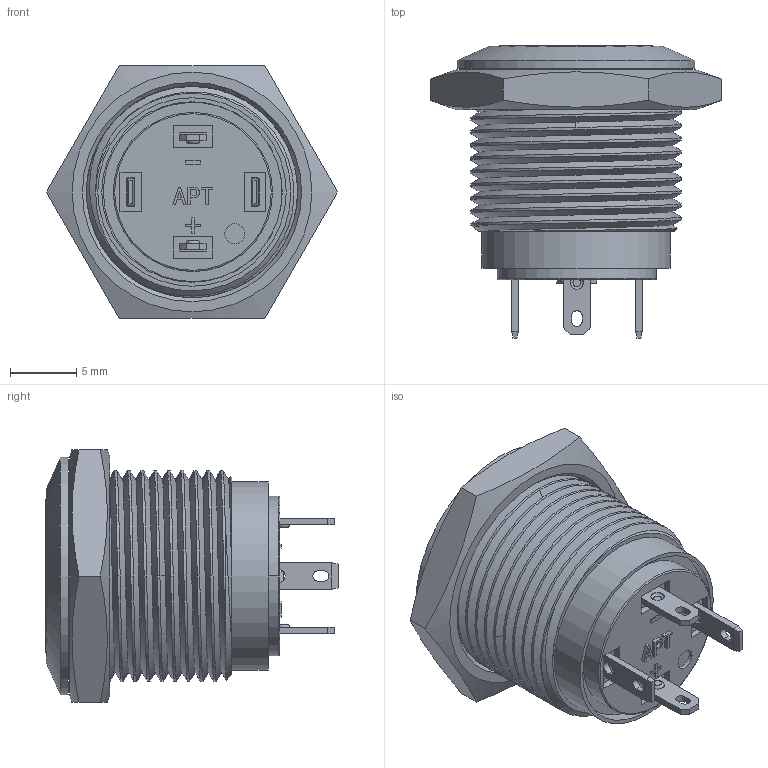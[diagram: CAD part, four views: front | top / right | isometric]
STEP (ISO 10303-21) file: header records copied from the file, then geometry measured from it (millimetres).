
FILE_DESCRIPTION(/* description */ (''),/* implementation_level */ '2;1');
FILE_NAME(/* name */ 'FM16E-SFP-10D1.stp',/* time_stamp */ '2020-07-29T09:38:37+08:00',/* author */ (''),/* organization */ (''),/* preprocessor_version */ 'ST-DEVELOPER v16.7',/* originating_system */ 'SIEMENS PLM Software NX 12.0',/* authorisation */ '');
FILE_SCHEMA (('AUTOMOTIVE_DESIGN { 1 0 10303 214 3 1 1 1 }'));
Length unit declared in the file: millimetre
Products named in the file (1): Admi4A54F2A67hfz
Bounding box: 21.94 x 22.02 x 19 mm (x, y, z)
Volume: 2561.7 mm3; surface area: 4942.1 mm2
Topology: 2 solids, 3 shells, 435 faces, 1168 edges, 762 vertices
Faces by surface type: plane 309, cylinder 83, cone 18, torus 11, bspline 10, extrusion 4
Full cylindrical faces by diameter (mm): 1 x2, 1.1 x2, 1.5 x1, 10.9 x1, 11.8 x1, 12.7 x1, 13.6 x1, 14.2 x1, 14.5 x1, 17.9 x1
Entity records: 16952 total; most frequent: CARTESIAN_POINT 5218, ORIENTED_EDGE 2248, DIRECTION 2090, EDGE_CURVE 1124, VECTOR 782, LINE 778, VERTEX_POINT 744, AXIS2_PLACEMENT_3D 654
